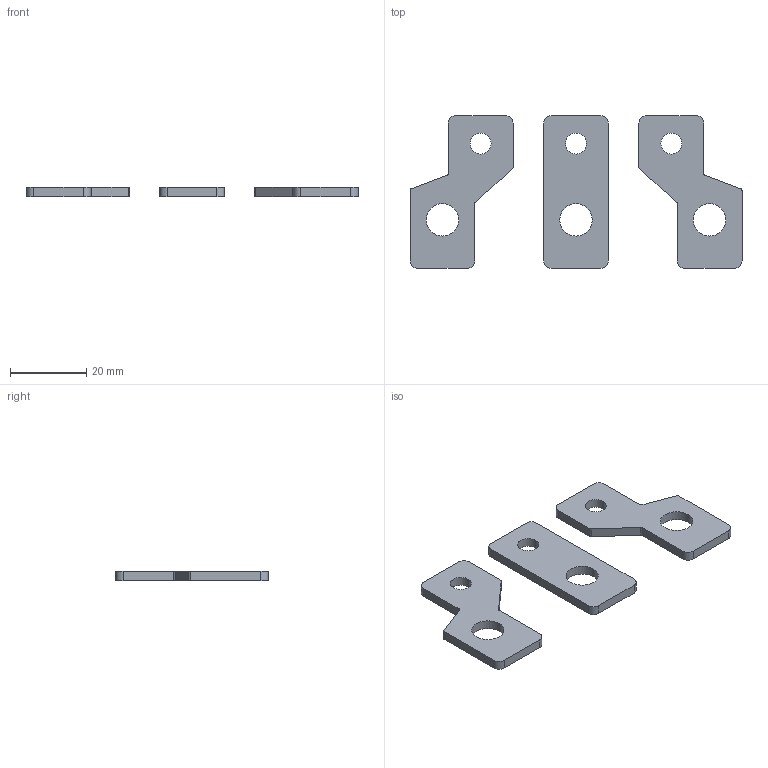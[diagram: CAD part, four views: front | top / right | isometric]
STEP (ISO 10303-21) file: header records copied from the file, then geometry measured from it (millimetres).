
FILE_DESCRIPTION (( 'STEP AP214' ), '1' );
FILE_NAME ('OptiMat E100 ðàñøèðèòåëè ïîëþñîâ 16...50 íèæíèå.STEP', '2023-11-09T12:19:25', ( '' ), ( '' ), 'SwSTEP 2.0', 'SolidWorks 2018', '' );
FILE_SCHEMA (( 'AUTOMOTIVE_DESIGN' ));
Length unit declared in the file: millimetre
Products named in the file (3): Ðàñøèðèòåëè ïîëþñîâ OptiMat E100-16...50-ÓÕË3-3øò. Âûâîä ñðåäíèé; Ðàñøèðèòåëè ïîëþñîâ OptiMat E100-16...50-ÓÕË3-3øò. Âûâîä êðàéíèé; OptiMat E100 ðàñøèðèòåëè ïîëþñîâ 16...50 íèæíèå
Assembly tree (3 placements, depth 2):
  OptiMat E100 ðàñøèðèòåëè ïîëþñîâ 16...50 íèæíèå
    Ðàñøèðèòåëè ïîëþñîâ OptiMat E100-16...50-ÓÕË3-3øò. Âûâîä êðàéíèé  x2
    Ðàñøèðèòåëè ïîëþñîâ OptiMat E100-16...50-ÓÕË3-3øò. Âûâîä ñðåäíèé
Bounding box: 87 x 40 x 2.5 mm (x, y, z)
Volume: 4515.5 mm3; surface area: 4827.1 mm2
Topology: 3 solids, 3 shells, 58 faces, 156 edges, 104 vertices
Faces by surface type: cylinder 32, plane 26
Entity records: 1274 total; most frequent: DIRECTION 220, CARTESIAN_POINT 202, ORIENTED_EDGE 192, EDGE_CURVE 96, AXIS2_PLACEMENT_3D 82, VERTEX_POINT 64, VECTOR 56, LINE 56
